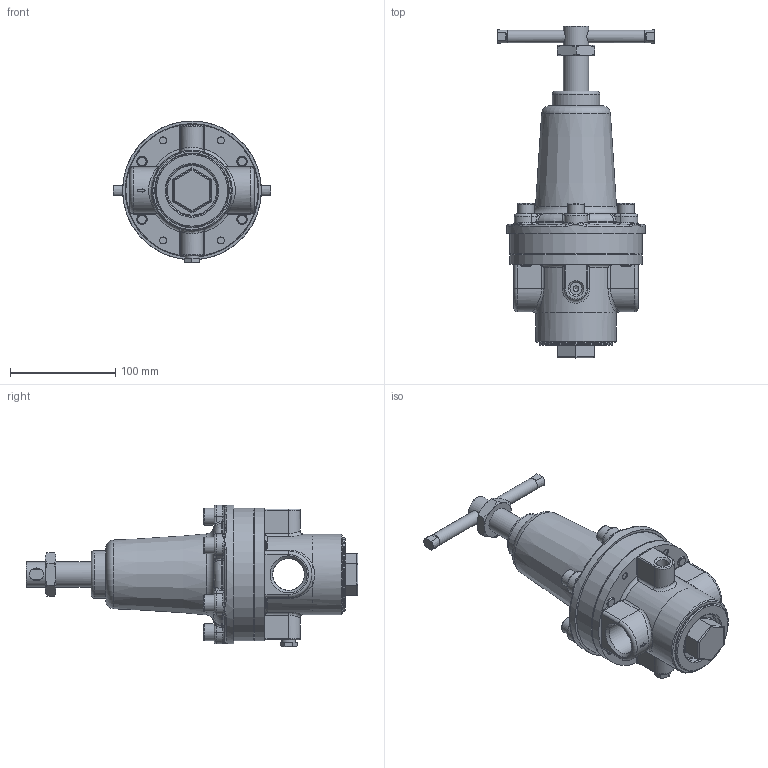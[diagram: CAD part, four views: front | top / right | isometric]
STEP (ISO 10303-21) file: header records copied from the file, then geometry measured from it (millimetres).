
FILE_DESCRIPTION(/* description */ ('PRESSURE REGULATOR 123'),/* implementation_level */ '2;1');
FILE_NAME(/* name */ 'I:\TEC\Lavoro\ARCHIVIO DISEGNI INVENTOR\WorkSpace\C81035.stp',/* time_stamp */ '2018-05-22T10:13:49+02:00',/* author */ ('lucalimonta'),/* organization */ (''),/* preprocessor_version */ 'ST-DEVELOPER v17',/* originating_system */ 'Autodesk Inventor 2018',/* authorisation */ '');
FILE_SCHEMA (('AUTOMOTIVE_DESIGN { 1 0 10303 214 3 1 1 }'));
Length unit declared in the file: millimetre
Products named in the file (40): C81035; P26061; P27064; P44016; P67004; 0DM10600; P21037; OR 13107; OR 18079; C43007; 18541; Perno vite regolazione R130; 0DNA1500; P32023; P24039; P24039_1; P24039_2; 0DC20618; 0DC20618_1; 0DC20618_2; 0DC20618_3; 0DC20618_4; 0DC20618_5; 0DC20513; 0DC20513_1; 0DC20513_2; 0DC20513_3; P20348; P34136; P32026; P25032; C22099; P22071; P42029; P41056; 0GAAB07054; P24043; P24043_1; OR 16099; P34014
Assembly tree (39 placements, depth 4):
  C81035
    P26061
    P27064
    P44016
    P67004
    0DM10600
    P21037
    OR 13107
    OR 18079
    C43007
      18541
      Perno vite regolazione R130
      0DNA1500
    P32023
    P24039
      P24039_1
        P24039_2
    0DC20618
    0DC20618_1
    0DC20618_2
    0DC20618_3
    0DC20618_4
    0DC20618_5
    0DC20513
    0DC20513_1
    0DC20513_2
    0DC20513_3
    P20348
    P34136
    P32026
    P25032
    C22099
      P22071
      P42029
      P41056
      0GAAB07054
    P24043
      P24043_1
    OR 16099
    P34014
Bounding box: 150 x 315.88 x 135.03 mm (x, y, z)
Volume: 415169.1 mm3; surface area: 227297.9 mm2
Topology: 19 solids, 19 shells, 692 faces, 1833 edges, 1138 vertices
Faces by surface type: plane 188, cylinder 185, cone 128, bspline 92, torus 87, sphere 12
Full cylindrical faces by diameter (mm): 3 x2, 5.5 x2, 6.647 x4, 8 x4, 8.376 x6, 10 x7, 11 x7, 11.445 x2, 12 x1, 12.02 x1, 12.3 x1, 13.157 x1, 16 x6, 21.835 x2, 24 x1, 30 x2, 30.291 x2, 31.265 x1, 40.921 x1, 45 x1, 49 x1, 70 x1, 71.095 x1, 76 x1, 76.5 x1, 126 x2, 126.8 x1, 132 x1
Entity records: 27616 total; most frequent: CARTESIAN_POINT 9740, ORIENTED_EDGE 3558, DIRECTION 3445, EDGE_CURVE 1779, AXIS2_PLACEMENT_3D 1504, VERTEX_POINT 1138, CIRCLE 811, EDGE_LOOP 757
